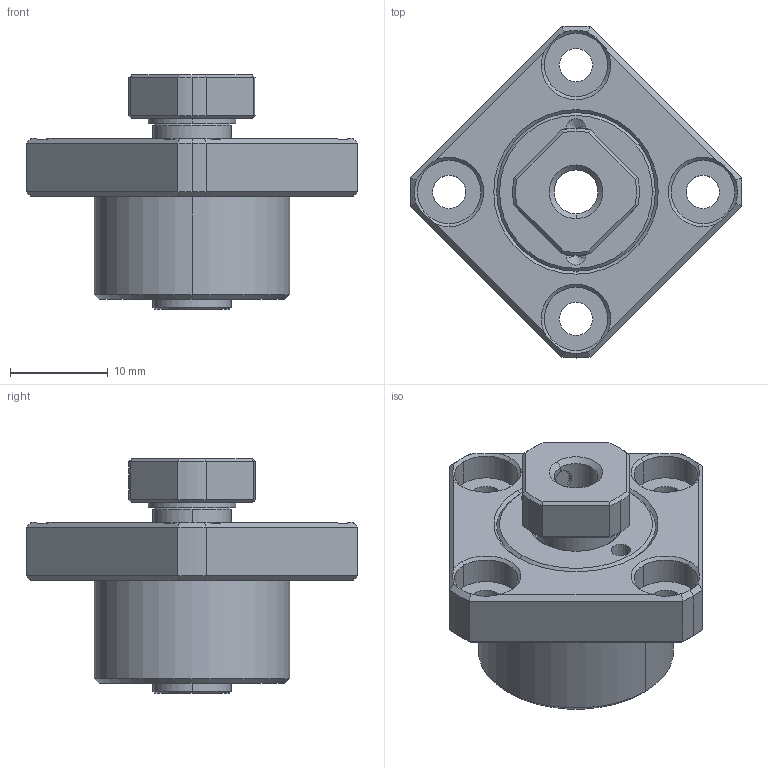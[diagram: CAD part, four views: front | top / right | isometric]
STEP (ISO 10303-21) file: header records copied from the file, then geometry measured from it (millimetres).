
FILE_DESCRIPTION (( 'STEP AP203' ), '1' );
FILE_NAME ('FSGK-5-P0-C7_203.STEP', '2013-02-28T00:23:11', ( '' ), ( '' ), 'SwSTEP 2.0', 'SolidWorks 2012', '' );
FILE_SCHEMA (( 'CONFIG_CONTROL_DESIGN' ));
Length unit declared in the file: millimetre
Products named in the file (1): FSGK-5-P0-C7_203
Bounding box: 33.99 x 34 x 24 mm (x, y, z)
Volume: 6833.3 mm3; surface area: 4352.2 mm2
Topology: 1 solids, 6 shells, 231 faces, 539 edges, 324 vertices
Faces by surface type: cone 82, cylinder 70, plane 63, torus 16
Entity records: 6809 total; most frequent: CARTESIAN_POINT 1367, DIRECTION 1212, ORIENTED_EDGE 1066, EDGE_CURVE 533, AXIS2_PLACEMENT_3D 507, VERTEX_POINT 324, CIRCLE 275, EDGE_LOOP 259
